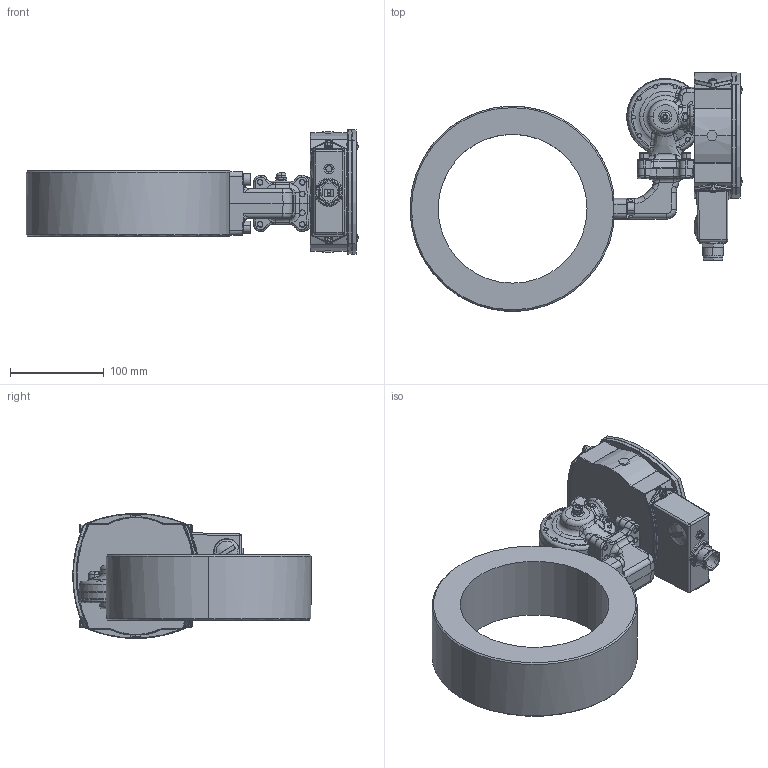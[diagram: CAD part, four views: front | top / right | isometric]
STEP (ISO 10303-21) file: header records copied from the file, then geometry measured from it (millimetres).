
FILE_DESCRIPTION (( 'STEP AP214' ), '1' );
FILE_NAME ('S FA150.STEP', '2016-09-21T07:40:50', ( 'User' ), ( 'HP' ), 'SwSTEP 2.0', 'SolidWorks 2016', '' );
FILE_SCHEMA (( 'AUTOMOTIVE_DESIGN' ));
Length unit declared in the file: millimetre
Products named in the file (35): ID_5_2; ID_4_3; S2_25_internal_2_1; ID_3_3; kupolmutter_1; ID_2_4; m_X_E4ssingsmembran_1; ID_1_4; S hus; ID_1_4_8; S FA150; ID_14; ID_13; FA150 anslutningsror; ID_12; fa hals; ID_1_1; ID_2_2; ID_1_4_5; ID_1_2; ID_10; membranhus br; ID_1_4_4; M5 membranskruvar_1; ID_1_4_3; skruv_membranhus_1; ID_1_1_2; fj_X_E4derbricka till membranhus BR_1; ID_9; MC6S M6x22_1; ID_1_4_2; Lock kontrollerad HMAB ELETTA 20160908_1; ID_7_2; ID_6_1; Membranhus kontrollerad HMAB ELETTA 20160908_1
Assembly tree (54 placements, depth 5):
  S FA150
    S hus
      ID_1_1
        ID_1_4
        ID_2_4
        ID_3_3
        ID_4_3
        ID_5_2
        ID_6_1  x4
        ID_7_2  x4
        ID_1_4_2
        ID_1_1_2
          ID_9  x2
        ID_1_4_3
        ID_1_4_4
        ID_10
        ID_1_4_5
      ID_12  x2
      ID_13
      ID_14
      ID_1_4_8
    membranhus br
      S2_25_internal_2_1
        m_X_E4ssingsmembran_1
        kupolmutter_1
      Membranhus kontrollerad HMAB ELETTA 20160908_1
      Lock kontrollerad HMAB ELETTA 20160908_1
      MC6S M6x22_1  x4
      M5 membranskruvar_1  x9
        fj_X_E4derbricka till membranhus BR_1
        skruv_membranhus_1
    fa hals
      ID_1_2
      ID_2_2  x2
    FA150 anslutningsror
Bounding box: 354.5 x 254.71 x 133.42 mm (x, y, z)
Volume: 1733640.9 mm3; surface area: 366677.6 mm2
Topology: 56 solids, 56 shells, 2416 faces, 5937 edges, 3683 vertices
Faces by surface type: plane 862, cylinder 687, bspline 585, cone 208, torus 67, sphere 7
Entity records: 101076 total; most frequent: CARTESIAN_POINT 58774, ORIENTED_EDGE 9340, DIRECTION 7191, EDGE_CURVE 4670, VERTEX_POINT 2916, AXIS2_PLACEMENT_3D 2683, EDGE_LOOP 2108, ADVANCED_FACE 1893
